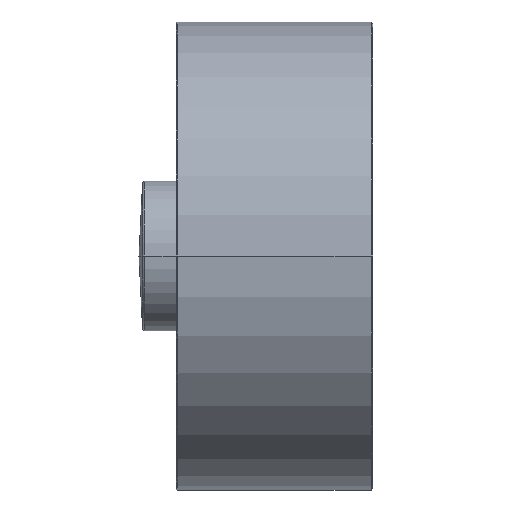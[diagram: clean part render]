
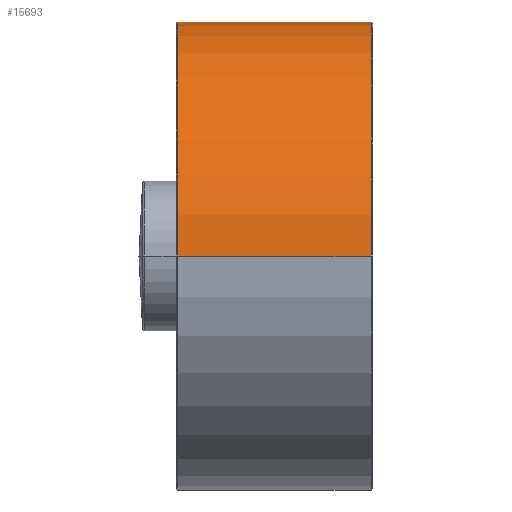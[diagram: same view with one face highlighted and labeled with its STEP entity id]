
A CAD part, left-side view. The second image highlights one B-rep face of the part: STEP entity #15693.
In plain terms, the highlighted cylindrical face has radius 25 mm (diameter 50 mm), a partial arc.
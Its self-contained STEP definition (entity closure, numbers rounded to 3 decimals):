
#456 = CARTESIAN_POINT ( 'NONE',  ( 25., 12.5, 0. ) ) ;
#606 = CARTESIAN_POINT ( 'NONE',  ( 24.789, 0.553, 3.245 ) ) ;
#676 = CARTESIAN_POINT ( 'NONE',  ( 25., -10.5, 0. ) ) ;
#716 = DIRECTION ( 'NONE',  ( 0., 1., 0. ) ) ;
#758 = CARTESIAN_POINT ( 'NONE',  ( 24.996, -10.485, 0.494 ) ) ;
#796 = FACE_OUTER_BOUND ( 'NONE', #14601, .T. ) ;
#852 = ORIENTED_EDGE ( 'NONE', *, *, #14220, .T. ) ;
#1026 = CARTESIAN_POINT ( 'NONE',  ( 24.556, -8.262, 4.7 ) ) ;
#1066 = CARTESIAN_POINT ( 'NONE',  ( 0., 12.5, 0. ) ) ;
#1117 = CARTESIAN_POINT ( 'NONE',  ( 24.5, -7.854, 4.975 ) ) ;
#1516 = DIRECTION ( 'NONE',  ( 0., 1., 0. ) ) ;
#1533 = AXIS2_PLACEMENT_3D ( 'NONE', #12740, #8946, #12829 ) ;
#1917 = CARTESIAN_POINT ( 'NONE',  ( 24.734, -9.274, 3.643 ) ) ;
#2014 = CARTESIAN_POINT ( 'NONE',  ( 25., -10.5, 0. ) ) ;
#2055 = LINE ( 'NONE', #10241, #10233 ) ;
#2702 = VERTEX_POINT ( 'NONE', #4781 ) ;
#3109 = LINE ( 'NONE', #456, #8321 ) ;
#3230 = VECTOR ( 'NONE', #16544, 1000. ) ;
#3342 = CARTESIAN_POINT ( 'NONE',  ( 24.944, 1.262, 1.692 ) ) ;
#3387 = DIRECTION ( 'NONE',  ( 0., 1., 0. ) ) ;
#4139 = LINE ( 'NONE', #5710, #3230 ) ;
#4434 = CARTESIAN_POINT ( 'NONE',  ( -25., 8.392, 0. ) ) ;
#4639 = AXIS2_PLACEMENT_3D ( 'NONE', #11859, #16097, #17234 ) ;
#4713 = ORIENTED_EDGE ( 'NONE', *, *, #15001, .T. ) ;
#4730 = CARTESIAN_POINT ( 'NONE',  ( 24.789, -9.553, 3.245 ) ) ;
#4744 = CARTESIAN_POINT ( 'NONE',  ( 24.887, 1.01, 2.386 ) ) ;
#4781 = CARTESIAN_POINT ( 'NONE',  ( 24.5, -7.854, 4.975 ) ) ;
#5002 = VERTEX_POINT ( 'NONE', #10532 ) ;
#5553 = VERTEX_POINT ( 'NONE', #2014 ) ;
#5703 = VERTEX_POINT ( 'NONE', #13111 ) ;
#5710 = CARTESIAN_POINT ( 'NONE',  ( -25., 12.5, 0. ) ) ;
#5869 = ORIENTED_EDGE ( 'NONE', *, *, #10999, .T. ) ;
#5971 = CARTESIAN_POINT ( 'NONE',  ( 24.704, 0.118, 3.839 ) ) ;
#6042 = CARTESIAN_POINT ( 'NONE',  ( 25., -10.5, 0.246 ) ) ;
#6128 = CARTESIAN_POINT ( 'NONE',  ( 24.982, -10.425, 0.98 ) ) ;
#6170 = DIRECTION ( 'NONE',  ( -1., 0., 0. ) ) ;
#6542 = EDGE_CURVE ( 'NONE', #5703, #7514, #12773, .T. ) ;
#6784 = EDGE_CURVE ( 'NONE', #2702, #12227, #2055, .T. ) ;
#7305 = CARTESIAN_POINT ( 'NONE',  ( 24.556, -0.737, 4.7 ) ) ;
#7373 = CARTESIAN_POINT ( 'NONE',  ( 24.971, -10.38, 1.219 ) ) ;
#7386 = CARTESIAN_POINT ( 'NONE',  ( 25., 1.5, 0. ) ) ;
#7514 = VERTEX_POINT ( 'NONE', #4434 ) ;
#7750 = AXIS2_PLACEMENT_3D ( 'NONE', #1066, #716, #6170 ) ;
#8315 = B_SPLINE_CURVE_WITH_KNOTS ( 'NONE', 3,
 ( #16886, #7305, #12932, #5971, #12680, #606, #16724, #10030, #4744, #15404, #3342, #14076, #10194, #7386 ),
 .UNSPECIFIED., .F., .F.,
 ( 4, 2, 2, 2, 2, 2, 4 ),
 ( 0., 0.001, 0.002, 0.003, 0.004, 0.004, 0.006 ),
 .UNSPECIFIED. ) ;
#8321 = VECTOR ( 'NONE', #1516, 1000. ) ;
#8622 = CARTESIAN_POINT ( 'NONE',  ( 24.93, -10.202, 1.929 ) ) ;
#8946 = DIRECTION ( 'NONE',  ( 0., -1., 0. ) ) ;
#9335 = B_SPLINE_CURVE_WITH_KNOTS ( 'NONE', 3,
 ( #676, #6042, #758, #6128, #7373, #8622, #16791, #13977, #4730, #1917, #15562, #13008, #1026, #1117 ),
 .UNSPECIFIED., .F., .F.,
 ( 4, 2, 2, 2, 2, 2, 4 ),
 ( 0.006, 0.007, 0.007, 0.009, 0.01, 0.01, 0.012 ),
 .UNSPECIFIED. ) ;
#9743 = VERTEX_POINT ( 'NONE', #14177 ) ;
#10030 = CARTESIAN_POINT ( 'NONE',  ( 24.865, 0.909, 2.608 ) ) ;
#10194 = CARTESIAN_POINT ( 'NONE',  ( 25., 1.5, 0.493 ) ) ;
#10233 = VECTOR ( 'NONE', #3387, 1000. ) ;
#10241 = CARTESIAN_POINT ( 'NONE',  ( 24.5, 12.5, 4.975 ) ) ;
#10505 = LINE ( 'NONE', #12886, #12774 ) ;
#10532 = CARTESIAN_POINT ( 'NONE',  ( 25., 1.5, 0. ) ) ;
#10999 = EDGE_CURVE ( 'NONE', #11263, #5553, #10505, .T. ) ;
#11263 = VERTEX_POINT ( 'NONE', #11279 ) ;
#11279 = CARTESIAN_POINT ( 'NONE',  ( 25., -12.3, 0. ) ) ;
#11633 = EDGE_CURVE ( 'NONE', #12227, #5002, #8315, .T. ) ;
#11859 = CARTESIAN_POINT ( 'NONE',  ( 0., -12.3, 0. ) ) ;
#12187 = EDGE_CURVE ( 'NONE', #9743, #7514, #4139, .T. ) ;
#12227 = VERTEX_POINT ( 'NONE', #15137 ) ;
#12249 = CIRCLE ( 'NONE', #4639, 25. ) ;
#12680 = CARTESIAN_POINT ( 'NONE',  ( 24.734, 0.271, 3.646 ) ) ;
#12740 = CARTESIAN_POINT ( 'NONE',  ( 0., 8.392, 0. ) ) ;
#12773 = CIRCLE ( 'NONE', #1533, 25. ) ;
#12774 = VECTOR ( 'NONE', #14559, 1000. ) ;
#12806 = ORIENTED_EDGE ( 'NONE', *, *, #11633, .T. ) ;
#12829 = DIRECTION ( 'NONE',  ( -1., 0., 0. ) ) ;
#12838 = EDGE_CURVE ( 'NONE', #5553, #2702, #9335, .T. ) ;
#12886 = CARTESIAN_POINT ( 'NONE',  ( 25., 12.5, 0. ) ) ;
#12932 = CARTESIAN_POINT ( 'NONE',  ( 24.616, -0.371, 4.381 ) ) ;
#13008 = CARTESIAN_POINT ( 'NONE',  ( 24.616, -8.629, 4.381 ) ) ;
#13111 = CARTESIAN_POINT ( 'NONE',  ( 25., 8.392, 0. ) ) ;
#13141 = CYLINDRICAL_SURFACE ( 'NONE', #7750, 25. ) ;
#13977 = CARTESIAN_POINT ( 'NONE',  ( 24.816, -9.68, 3.038 ) ) ;
#14076 = CARTESIAN_POINT ( 'NONE',  ( 24.985, 1.44, 0.978 ) ) ;
#14177 = CARTESIAN_POINT ( 'NONE',  ( -25., -12.3, 0. ) ) ;
#14220 = EDGE_CURVE ( 'NONE', #5002, #5703, #3109, .T. ) ;
#14492 = ORIENTED_EDGE ( 'NONE', *, *, #6542, .T. ) ;
#14559 = DIRECTION ( 'NONE',  ( 0., 1., 0. ) ) ;
#14601 = EDGE_LOOP ( 'NONE', ( #4713, #5869, #14645, #15653, #12806, #852, #14492, #16776 ) ) ;
#14645 = ORIENTED_EDGE ( 'NONE', *, *, #12838, .T. ) ;
#15001 = EDGE_CURVE ( 'NONE', #9743, #11263, #12249, .T. ) ;
#15137 = CARTESIAN_POINT ( 'NONE',  ( 24.5, -1.146, 4.975 ) ) ;
#15404 = CARTESIAN_POINT ( 'NONE',  ( 24.926, 1.187, 1.929 ) ) ;
#15562 = CARTESIAN_POINT ( 'NONE',  ( 24.705, -9.12, 3.836 ) ) ;
#15653 = ORIENTED_EDGE ( 'NONE', *, *, #6784, .T. ) ;
#15693 = ADVANCED_FACE ( 'NONE', ( #796 ), #13141, .T. ) ;
#16097 = DIRECTION ( 'NONE',  ( 0., 1., 0. ) ) ;
#16544 = DIRECTION ( 'NONE',  ( 0., 1., 0. ) ) ;
#16724 = CARTESIAN_POINT ( 'NONE',  ( 24.816, 0.68, 3.037 ) ) ;
#16776 = ORIENTED_EDGE ( 'NONE', *, *, #12187, .F. ) ;
#16791 = CARTESIAN_POINT ( 'NONE',  ( 24.889, -10.023, 2.394 ) ) ;
#16886 = CARTESIAN_POINT ( 'NONE',  ( 24.5, -1.146, 4.975 ) ) ;
#17234 = DIRECTION ( 'NONE',  ( 1., 0., 0. ) ) ;
